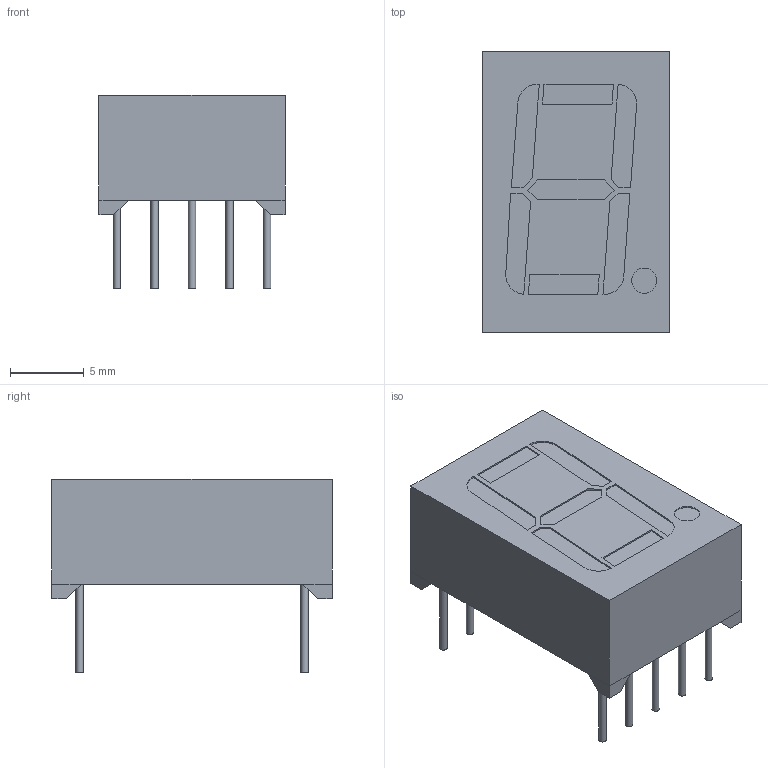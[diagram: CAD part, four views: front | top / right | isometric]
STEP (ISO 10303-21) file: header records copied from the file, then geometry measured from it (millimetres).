
FILE_DESCRIPTION(('FreeCAD Model'),'2;1');
FILE_NAME('C:/Users/Metaltex-99/Desktop/DL7A-1.STP', '2021-08-19T10:43:27',('Engenharia Metaltex'),('Metaltex'), 'Open CASCADE STEP processor 7.3','FreeCAD','Unknown');
FILE_SCHEMA(('AUTOMOTIVE_DESIGN { 1 0 10303 214 1 1 1 1 }'));
Length unit declared in the file: millimetre
Products named in the file (12): DL7A-1; Body; P001; P002; P003; P004; P005; P006; P007; P008; P009; P010
Assembly tree (11 placements, depth 2):
  DL7A-1
    Body
    P001
    P002
    P003
    P004
    P005
    P006
    P007
    P008
    P009
    P010
Bounding box: 12.6 x 19 x 13.1 mm (x, y, z)
Volume: 1690 mm3; surface area: 1063.8 mm2
Topology: 11 solids, 11 shells, 127 faces, 267 edges, 170 vertices
Faces by surface type: plane 112, cylinder 15
Full cylindrical faces by diameter (mm): 0.5 x10, 1.7 x1
Entity records: 7110 total; most frequent: CARTESIAN_POINT 1152, DIRECTION 1102, LINE 741, VECTOR 741, ORIENTED_EDGE 534, PCURVE 534, DEFINITIONAL_REPRESENTATION 534, EDGE_CURVE 267
